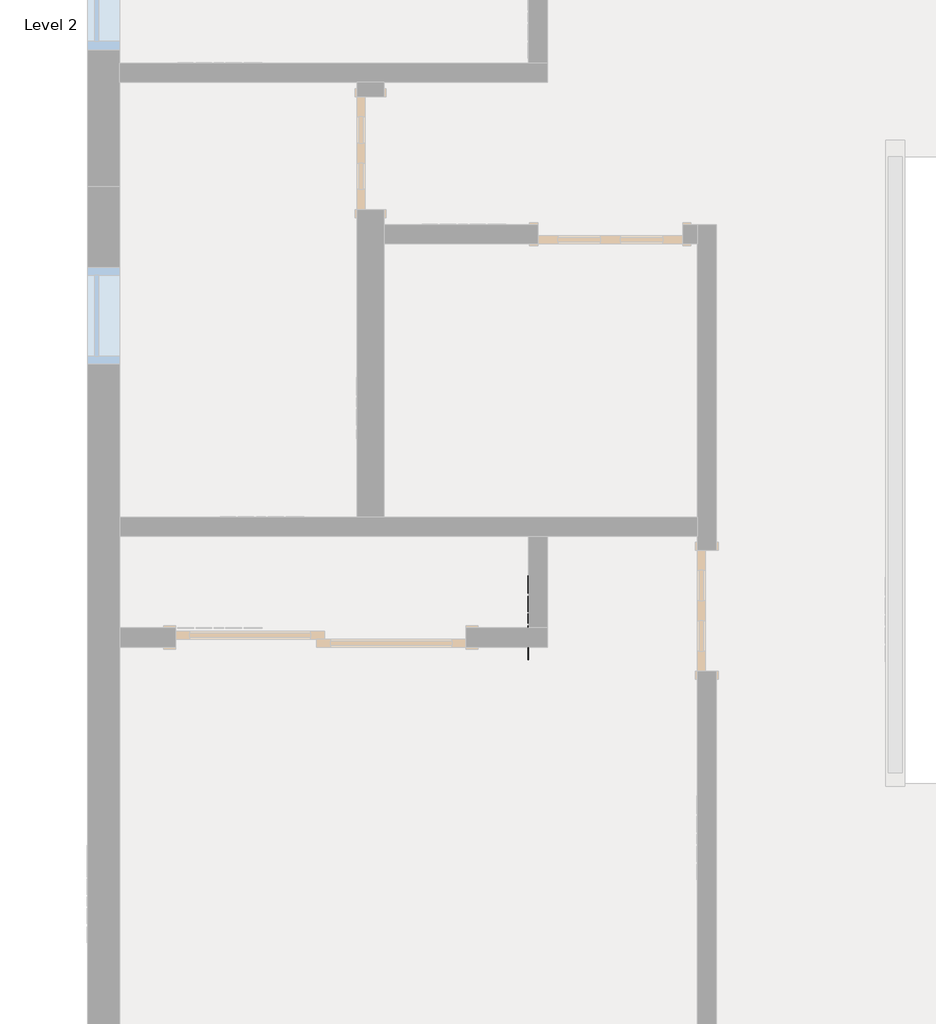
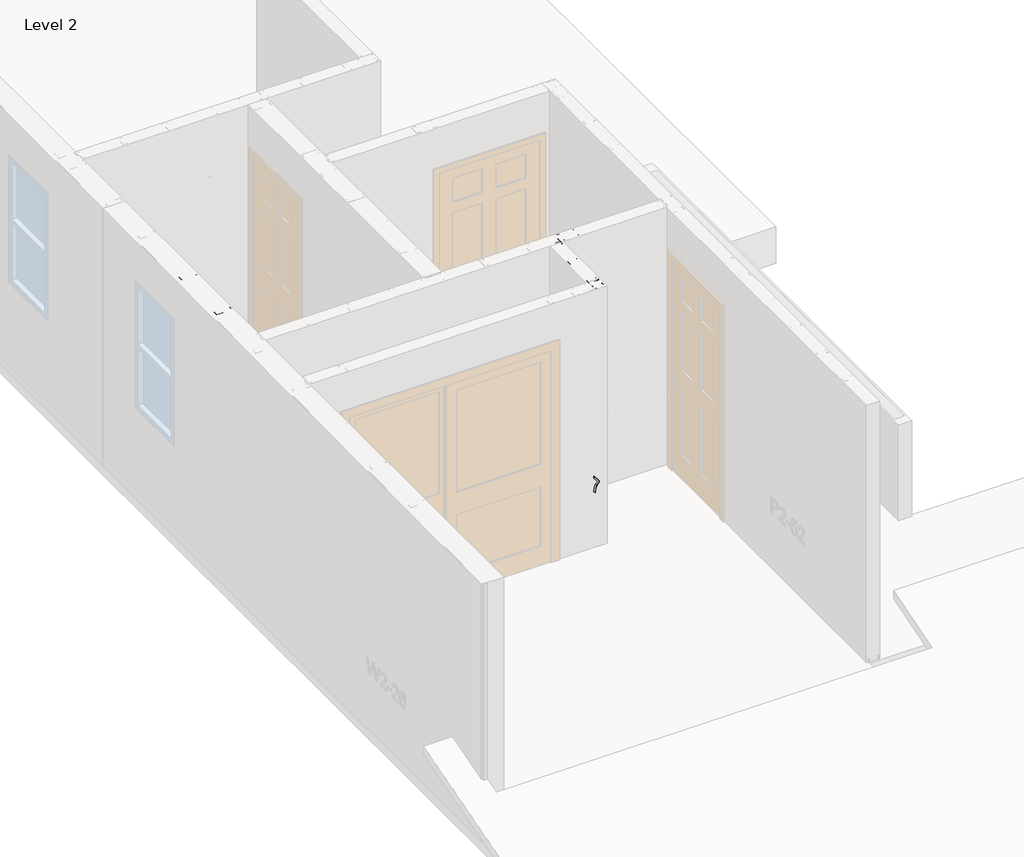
# One storey, part 10 of 46: 9 columns, 1 beam, 1 fastener.
"""IFC4 building model written with IfcOpenShell, lengths in millimetres."""

from ifc_helpers import new_model, si_unit, point, frame, origin, place, context, project, spatial, circle_curve, ellipse_curve, trimmed, transform, mapped, element, save
from ifc_brep_helpers import plane_surface, extruded_surface, advanced_brep
from components import beam_350nf150_33_0b0e94d4, column_350nf150_33_a93e9d8a, panellabel_7d7d7d8c

model = new_model("IFC4")

# Units and contexts
model_context = context("Model", 3, world=origin())
ifc_project = project(units=[si_unit("LENGTHUNIT", "METRE", prefix="MILLI")], contexts=[model_context])

# Site, building, storey
site = spatial("IfcSite", under=ifc_project)
building = spatial("IfcBuilding", under=site)
storey = spatial("IfcBuildingStorey", under=building, Name="Level 2", Elevation=3060.7)

# Beam
placement = place(None, origin())
beam_350nf150_33_shape = beam_350nf150_33_0b0e94d4(model_context)
element("IfcBeam", 1, ObjectType="BIMSF-SSMA-S : 350NF150-33", at=placement, inside=storey, context=model_context, shape_type="MappedRepresentation", body=[
    mapped(beam_350nf150_33_shape, transform((-12473.1163349, 5375.402221, 3076.575), x_axis=(0.0, 1.0000000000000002, 0.0), y_axis=(0.0, 0.0, -1.0000000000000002), z_axis=(-1.0000000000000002, 0.0, 0.0))),
])

# Columns
element("IfcColumn", 2, ObjectType="BIMSF-SSMA-S-Column : 350NF150-33", at=placement, inside=storey, context=model_context, shape_type="AdvancedBrep", body=[
    advanced_brep(
    [(-12298.4913349, 5724.652221, 3061.5929687), (-12298.4913349, 5813.552221, 3061.5929687), (-12260.3913349, 5813.552221, 3061.5929687), (-12260.3913349, 5807.8947052, 3061.5929687), (-12261.2736507, 5807.8947052, 3061.5929687), (-12261.2736507, 5812.6699052, 3061.5929687), (-12297.6090191, 5812.6699052, 3061.5929687), (-12297.6090191, 5725.5345367, 3061.5929687), (-12261.2736507, 5725.5345367, 3061.5929687), (-12261.2736507, 5730.3097367, 3061.5929687), (-12260.3913349, 5730.3097367, 3061.5929687), (-12260.3913349, 5724.652221, 3061.5929687), (-12298.4913349, 5724.652221, 5523.6070313), (-12298.4913349, 5813.552221, 5523.6070313), (-12298.4913349, 5781.802221, 3671.1929688), (-12298.4913349, 5756.402221, 3671.1929688), (-12298.4913349, 5781.802221, 4890.3929687), (-12298.4913349, 5756.402221, 4890.3929687), (-12260.3913349, 5813.552221, 5523.6070313), (-12260.3913349, 5807.8947052, 5523.6070313), (-12261.2736507, 5807.8947052, 5523.6070313), (-12261.2736507, 5812.6699052, 5523.6070313), (-12297.6090191, 5812.6699052, 5523.6070313), (-12297.6090191, 5725.5345367, 5523.6070313), (-12297.6090191, 5756.402221, 3671.1929688), (-12297.6090191, 5781.802221, 3671.1929688), (-12297.6090191, 5756.402221, 4890.3929687), (-12297.6090191, 5781.802221, 4890.3929687), (-12261.2736507, 5725.5345367, 5523.6070313), (-12261.2736507, 5730.3097367, 5523.6070313), (-12260.3913349, 5730.3097367, 5523.6070313), (-12260.3913349, 5724.652221, 5523.6070313)],
    [
        (0, 1),
        (1, 2),
        (2, 3),
        (3, 4),
        (4, 5),
        (5, 6),
        (6, 7),
        (7, 8),
        (8, 9),
        (9, 10),
        (10, 11),
        (11, 0),
        (0, 12),
        (12, 13),
        (13, 1),
        (14, 15, circle_curve(frame((-12298.4913349, 5769.102221, 3671.1929688), z_axis=(1.0, 0.0, 0.0), x_axis=(0.0, 1.0, 0.0)), 12.7)),
        (15, 14, circle_curve(frame((-12298.4913349, 5769.102221, 3671.1929688), z_axis=(1.0, 0.0, 0.0), x_axis=(0.0, 1.0, 0.0)), 12.7)),
        (16, 17, circle_curve(frame((-12298.4913349, 5769.102221, 4890.3929687), z_axis=(1.0, 0.0, 0.0), x_axis=(0.0, 1.0, 0.0)), 12.7)),
        (17, 16, circle_curve(frame((-12298.4913349, 5769.102221, 4890.3929687), z_axis=(1.0, 0.0, 0.0), x_axis=(0.0, 1.0, 0.0)), 12.7)),
        (13, 18),
        (18, 2),
        (18, 19),
        (19, 3),
        (19, 20),
        (20, 4),
        (20, 21),
        (21, 5),
        (21, 22),
        (22, 6),
        (22, 23),
        (23, 7),
        (24, 25, circle_curve(frame((-12297.6090191, 5769.102221, 3671.1929688), z_axis=(-1.0, 0.0, 0.0), x_axis=(0.0, 1.0, 0.0)), 12.7)),
        (25, 24, circle_curve(frame((-12297.6090191, 5769.102221, 3671.1929688), z_axis=(-1.0, 0.0, 0.0), x_axis=(0.0, 1.0, 0.0)), 12.7)),
        (26, 27, circle_curve(frame((-12297.6090191, 5769.102221, 4890.3929687), z_axis=(-1.0, 0.0, 0.0), x_axis=(0.0, 1.0, 0.0)), 12.7)),
        (27, 26, circle_curve(frame((-12297.6090191, 5769.102221, 4890.3929687), z_axis=(-1.0, 0.0, 0.0), x_axis=(0.0, 1.0, 0.0)), 12.7)),
        (23, 28),
        (28, 8),
        (28, 29),
        (29, 9),
        (29, 30),
        (30, 10),
        (30, 31),
        (31, 11),
        (31, 12),
        (24, 15),
        (14, 25),
        (26, 17),
        (16, 27),
    ],
    [
        plane_surface(frame((-12298.4913349, 5724.652221, 3061.5929687), z_axis=(0.0, 0.0, -1.0), x_axis=(-1.0, 0.0, 0.0))),
        plane_surface(frame((-12298.4913349, 5813.552221, 5523.6070313), z_axis=(-1.0, 0.0, 0.0), x_axis=(0.0, 0.0, -1.0))),
        plane_surface(frame((-12260.3913349, 5813.552221, 5523.6070313), z_axis=(0.0, 1.0, 0.0), x_axis=(0.0, 0.0, -1.0))),
        plane_surface(frame((-12260.3913349, 5807.8947052, 5523.6070313), z_axis=(1.0, 0.0, 0.0), x_axis=(0.0, 0.0, -1.0))),
        plane_surface(frame((-12261.2736507, 5807.8947052, 5523.6070313), z_axis=(0.0, -1.0, 0.0), x_axis=(0.0, 0.0, -1.0))),
        plane_surface(frame((-12261.2736507, 5812.6699052, 5523.6070313), z_axis=(-1.0, 0.0, 0.0), x_axis=(0.0, 0.0, -1.0))),
        plane_surface(frame((-12297.6090191, 5812.6699052, 5523.6070313), z_axis=(0.0, -1.0, 0.0), x_axis=(0.0, 0.0, -1.0))),
        plane_surface(frame((-12297.6090191, 5725.5345367, 5523.6070313), z_axis=(1.0, 0.0, 0.0), x_axis=(0.0, 0.0, -1.0))),
        plane_surface(frame((-12261.2736507, 5725.5345367, 5523.6070313), z_axis=(0.0, 1.0, 0.0), x_axis=(0.0, 0.0, -1.0))),
        plane_surface(frame((-12261.2736507, 5730.3097367, 5523.6070313), z_axis=(-1.0, 0.0, 0.0), x_axis=(0.0, 0.0, -1.0))),
        plane_surface(frame((-12260.3913349, 5730.3097367, 5523.6070313), z_axis=(0.0, 1.0, 0.0), x_axis=(0.0, 0.0, -1.0))),
        plane_surface(frame((-12260.3913349, 5724.652221, 5523.6070313), z_axis=(1.0, 0.0, 0.0), x_axis=(0.0, 0.0, -1.0))),
        plane_surface(frame((-12298.4913349, 5724.652221, 5523.6070313), z_axis=(0.0, -1.0, 0.0), x_axis=(0.0, 0.0, -1.0))),
        plane_surface(frame((-12298.4913349, 5724.652221, 5523.6070313), z_axis=(0.0, 0.0, 1.0), x_axis=(1.0, 0.0, 0.0))),
        extruded_surface(trimmed(ellipse_curve(frame((-9817.4272724, 5769.102221, 3671.1929688), z_axis=(-1.0, 0.0, 0.0), x_axis=(0.0, 1.0, 0.0)), 12.7, 12.7), [point((-9817.4272724, 5756.402221, 3671.1929688))], [point((-9817.4272724, 5781.802221, 3671.1929688))], True, "CARTESIAN"), (4924.028125, 0.0, 0.0), 4924.028125),
        extruded_surface(trimmed(ellipse_curve(frame((-9817.4272724, 5769.102221, 3671.1929688), z_axis=(-1.0, 0.0, 0.0), x_axis=(0.0, 1.0, 0.0)), 12.7, 12.7), [point((-9817.4272724, 5781.802221, 3671.1929688))], [point((-9817.4272724, 5756.402221, 3671.1929688))], True, "CARTESIAN"), (4924.028125, 0.0, 0.0), 4924.028125),
        extruded_surface(trimmed(ellipse_curve(frame((-9817.4272724, 5769.102221, 4890.3929687), z_axis=(-1.0, 0.0, 0.0), x_axis=(0.0, 1.0, 0.0)), 12.7, 12.7), [point((-9817.4272724, 5756.402221, 4890.3929687))], [point((-9817.4272724, 5781.802221, 4890.3929687))], True, "CARTESIAN"), (4924.028125, 0.0, 0.0), 4924.028125),
        extruded_surface(trimmed(ellipse_curve(frame((-9817.4272724, 5769.102221, 4890.3929687), z_axis=(-1.0, 0.0, 0.0), x_axis=(0.0, 1.0, 0.0)), 12.7, 12.7), [point((-9817.4272724, 5781.802221, 4890.3929687))], [point((-9817.4272724, 5756.402221, 4890.3929687))], True, "CARTESIAN"), (4924.028125, 0.0, 0.0), 4924.028125),
    ],
    [
        (0, [[1, 2, 3, 4, 5, 6, 7, 8, 9, 10, 11, 12]]),
        (1, [[-1, 13, 14, 15], [16, 17], [18, 19]]),
        (2, [[-2, -15, 20, 21]]),
        (3, [[-3, -21, 22, 23]]),
        (4, [[-4, -23, 24, 25]]),
        (5, [[-5, -25, 26, 27]]),
        (6, [[-6, -27, 28, 29]]),
        (7, [[-7, -29, 30, 31], [32, 33], [34, 35]]),
        (8, [[-8, -31, 36, 37]]),
        (9, [[-9, -37, 38, 39]]),
        (10, [[-10, -39, 40, 41]]),
        (11, [[-11, -41, 42, 43]]),
        (12, [[-12, -43, 44, -13]]),
        (13, [[-14, -44, -42, -40, -38, -36, -30, -28, -26, -24, -22, -20]]),
        (14, [[45, -16, 46, -32]]),
        (15, [[-45, -33, -46, -17]]),
        (16, [[47, -18, 48, -34]]),
        (17, [[-47, -35, -48, -19]]),
    ],
),
])
element("IfcColumn", 3, ObjectType="BIMSF-SSMA-S-Column : 350NF150-33", at=placement, inside=storey, context=model_context, shape_type="AdvancedBrep", body=[
    advanced_brep(
    [(-12428.6663349, 5026.152221, 3061.5929687), (-12517.5663349, 5026.152221, 3061.5929687), (-12517.5663349, 5064.252221, 3061.5929687), (-12511.9088191, 5064.252221, 3061.5929687), (-12511.9088191, 5063.3699052, 3061.5929687), (-12516.6840191, 5063.3699052, 3061.5929687), (-12516.6840191, 5027.0345367, 3061.5929687), (-12429.5486507, 5027.0345367, 3061.5929687), (-12429.5486507, 5063.3699052, 3061.5929687), (-12434.3238507, 5063.3699052, 3061.5929687), (-12434.3238507, 5064.252221, 3061.5929687), (-12428.6663349, 5064.252221, 3061.5929687), (-12428.6663349, 5026.152221, 5523.6070313), (-12517.5663349, 5026.152221, 5523.6070313), (-12485.8163349, 5026.152221, 3671.1929687), (-12460.4163349, 5026.152221, 3671.1929687), (-12485.8163349, 5026.152221, 4890.3929687), (-12460.4163349, 5026.152221, 4890.3929687), (-12517.5663349, 5064.252221, 5523.6070313), (-12511.9088191, 5064.252221, 5523.6070313), (-12511.9088191, 5063.3699052, 5523.6070313), (-12516.6840191, 5063.3699052, 5523.6070313), (-12516.6840191, 5027.0345367, 5523.6070313), (-12429.5486507, 5027.0345367, 5523.6070313), (-12460.4163349, 5027.0345367, 3671.1929688), (-12485.8163349, 5027.0345367, 3671.1929688), (-12460.4163349, 5027.0345367, 4890.3929687), (-12485.8163349, 5027.0345367, 4890.3929687), (-12429.5486507, 5063.3699052, 5523.6070313), (-12434.3238507, 5063.3699052, 5523.6070313), (-12434.3238507, 5064.252221, 5523.6070313), (-12428.6663349, 5064.252221, 5523.6070313)],
    [
        (0, 1),
        (1, 2),
        (2, 3),
        (3, 4),
        (4, 5),
        (5, 6),
        (6, 7),
        (7, 8),
        (8, 9),
        (9, 10),
        (10, 11),
        (11, 0),
        (0, 12),
        (12, 13),
        (13, 1),
        (14, 15, circle_curve(frame((-12473.1163349, 5026.152221, 3671.1929688), z_axis=(0.0, 1.0, 0.0), x_axis=(-1.0, 0.0, 0.0)), 12.7)),
        (15, 14, circle_curve(frame((-12473.1163349, 5026.152221, 3671.1929688), z_axis=(0.0, 1.0, 0.0), x_axis=(-1.0, 0.0, 0.0)), 12.7)),
        (16, 17, circle_curve(frame((-12473.1163349, 5026.152221, 4890.3929687), z_axis=(0.0, 1.0, 0.0), x_axis=(-1.0, 0.0, 0.0)), 12.7)),
        (17, 16, circle_curve(frame((-12473.1163349, 5026.152221, 4890.3929687), z_axis=(0.0, 1.0, 0.0), x_axis=(-1.0, 0.0, 0.0)), 12.7)),
        (13, 18),
        (18, 2),
        (18, 19),
        (19, 3),
        (19, 20),
        (20, 4),
        (20, 21),
        (21, 5),
        (21, 22),
        (22, 6),
        (22, 23),
        (23, 7),
        (24, 25, circle_curve(frame((-12473.1163349, 5027.0345367, 3671.1929687), z_axis=(0.0, -1.0, 0.0), x_axis=(-1.0, 0.0, 0.0)), 12.7)),
        (25, 24, circle_curve(frame((-12473.1163349, 5027.0345367, 3671.1929687), z_axis=(0.0, -1.0, 0.0), x_axis=(-1.0, 0.0, 0.0)), 12.7)),
        (26, 27, circle_curve(frame((-12473.1163349, 5027.0345367, 4890.3929687), z_axis=(0.0, -1.0, 0.0), x_axis=(-1.0, 0.0, 0.0)), 12.7)),
        (27, 26, circle_curve(frame((-12473.1163349, 5027.0345367, 4890.3929687), z_axis=(0.0, -1.0, 0.0), x_axis=(-1.0, 0.0, 0.0)), 12.7)),
        (23, 28),
        (28, 8),
        (28, 29),
        (29, 9),
        (29, 30),
        (30, 10),
        (30, 31),
        (31, 11),
        (31, 12),
        (24, 15),
        (14, 25),
        (26, 17),
        (16, 27),
    ],
    [
        plane_surface(frame((-12428.6663349, 5026.152221, 3061.5929687), z_axis=(0.0, 0.0, -1.0), x_axis=(0.0, -1.0, 0.0))),
        plane_surface(frame((-12517.5663349, 5026.152221, 5523.6070313), z_axis=(0.0, -1.0, 0.0), x_axis=(0.0, 0.0, -1.0))),
        plane_surface(frame((-12517.5663349, 5064.252221, 5523.6070313), z_axis=(-1.0, 0.0, 0.0), x_axis=(0.0, 0.0, -1.0))),
        plane_surface(frame((-12511.9088191, 5064.252221, 5523.6070313), z_axis=(0.0, 1.0, 0.0), x_axis=(0.0, 0.0, -1.0))),
        plane_surface(frame((-12511.9088191, 5063.3699052, 5523.6070313), z_axis=(1.0, 0.0, 0.0), x_axis=(0.0, 0.0, -1.0))),
        plane_surface(frame((-12516.6840191, 5063.3699052, 5523.6070313), z_axis=(0.0, -1.0, 0.0), x_axis=(0.0, 0.0, -1.0))),
        plane_surface(frame((-12516.6840191, 5027.0345367, 5523.6070313), z_axis=(1.0, 0.0, 0.0), x_axis=(0.0, 0.0, -1.0))),
        plane_surface(frame((-12429.5486507, 5027.0345367, 5523.6070313), z_axis=(0.0, 1.0, 0.0), x_axis=(0.0, 0.0, -1.0))),
        plane_surface(frame((-12429.5486507, 5063.3699052, 5523.6070313), z_axis=(-1.0, 0.0, 0.0), x_axis=(0.0, 0.0, -1.0))),
        plane_surface(frame((-12434.3238507, 5063.3699052, 5523.6070313), z_axis=(0.0, -1.0, 0.0), x_axis=(0.0, 0.0, -1.0))),
        plane_surface(frame((-12434.3238507, 5064.252221, 5523.6070313), z_axis=(-1.0, 0.0, 0.0), x_axis=(0.0, 0.0, -1.0))),
        plane_surface(frame((-12428.6663349, 5064.252221, 5523.6070313), z_axis=(0.0, 1.0, 0.0), x_axis=(0.0, 0.0, -1.0))),
        plane_surface(frame((-12428.6663349, 5026.152221, 5523.6070313), z_axis=(1.0, 0.0, 0.0), x_axis=(0.0, 0.0, -1.0))),
        plane_surface(frame((-12428.6663349, 5026.152221, 5523.6070313), z_axis=(0.0, 0.0, 1.0), x_axis=(0.0, 1.0, 0.0))),
        extruded_surface(trimmed(ellipse_curve(frame((-12473.1163349, 7507.2162835, 3671.1929688), z_axis=(0.0, -1.0, 0.0), x_axis=(-1.0, 0.0, 0.0)), 12.7, 12.7), [point((-12460.4163349, 7507.2162835, 3671.1929688))], [point((-12485.8163349, 7507.2162835, 3671.1929688))], True, "CARTESIAN"), (0.0, 4924.028125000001, 0.0), 4924.028125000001),
        extruded_surface(trimmed(ellipse_curve(frame((-12473.1163349, 7507.2162835, 3671.1929688), z_axis=(0.0, -1.0, 0.0), x_axis=(-1.0, 0.0, 0.0)), 12.7, 12.7), [point((-12485.8163349, 7507.2162835, 3671.1929688))], [point((-12460.4163349, 7507.2162835, 3671.1929688))], True, "CARTESIAN"), (0.0, 4924.028125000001, 0.0), 4924.028125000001),
        extruded_surface(trimmed(ellipse_curve(frame((-12473.1163349, 7507.2162835, 4890.3929687), z_axis=(0.0, -1.0, 0.0), x_axis=(-1.0, 0.0, 0.0)), 12.7, 12.7), [point((-12460.4163349, 7507.2162835, 4890.3929687))], [point((-12485.8163349, 7507.2162835, 4890.3929687))], True, "CARTESIAN"), (0.0, 4924.028125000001, 0.0), 4924.028125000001),
        extruded_surface(trimmed(ellipse_curve(frame((-12473.1163349, 7507.2162835, 4890.3929687), z_axis=(0.0, -1.0, 0.0), x_axis=(-1.0, 0.0, 0.0)), 12.7, 12.7), [point((-12485.8163349, 7507.2162835, 4890.3929687))], [point((-12460.4163349, 7507.2162835, 4890.3929687))], True, "CARTESIAN"), (0.0, 4924.028125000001, 0.0), 4924.028125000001),
    ],
    [
        (0, [[1, 2, 3, 4, 5, 6, 7, 8, 9, 10, 11, 12]]),
        (1, [[-1, 13, 14, 15], [16, 17], [18, 19]]),
        (2, [[-2, -15, 20, 21]]),
        (3, [[-3, -21, 22, 23]]),
        (4, [[-4, -23, 24, 25]]),
        (5, [[-5, -25, 26, 27]]),
        (6, [[-6, -27, 28, 29]]),
        (7, [[-7, -29, 30, 31], [32, 33], [34, 35]]),
        (8, [[-8, -31, 36, 37]]),
        (9, [[-9, -37, 38, 39]]),
        (10, [[-10, -39, 40, 41]]),
        (11, [[-11, -41, 42, 43]]),
        (12, [[-12, -43, 44, -13]]),
        (13, [[-14, -44, -42, -40, -38, -36, -30, -28, -26, -24, -22, -20]]),
        (14, [[45, -16, 46, -32]]),
        (15, [[-45, -33, -46, -17]]),
        (16, [[47, -18, 48, -34]]),
        (17, [[-47, -35, -48, -19]]),
    ],
),
])
element("IfcColumn", 4, ObjectType="BIMSF-SSMA-S-Column : 350NF150-33", at=placement, inside=storey, context=model_context, shape_type="AdvancedBrep", body=[
    advanced_brep(
    [(-12517.5663349, 5724.652221, 3061.5929687), (-12428.6663349, 5724.652221, 3061.5929687), (-12428.6663349, 5686.552221, 3061.5929687), (-12434.3238507, 5686.552221, 3061.5929687), (-12434.3238507, 5687.4345367, 3061.5929687), (-12429.5486507, 5687.4345367, 3061.5929687), (-12429.5486507, 5723.7699052, 3061.5929687), (-12516.6840191, 5723.7699052, 3061.5929687), (-12516.6840191, 5687.4345367, 3061.5929687), (-12511.9088191, 5687.4345367, 3061.5929687), (-12511.9088191, 5686.552221, 3061.5929687), (-12517.5663349, 5686.552221, 3061.5929687), (-12517.5663349, 5724.652221, 5523.6070313), (-12428.6663349, 5724.652221, 5523.6070313), (-12460.4163349, 5724.652221, 3671.1929687), (-12485.8163349, 5724.652221, 3671.1929687), (-12460.4163349, 5724.652221, 4890.3929687), (-12485.8163349, 5724.652221, 4890.3929687), (-12428.6663349, 5686.552221, 5523.6070313), (-12434.3238507, 5686.552221, 5523.6070313), (-12434.3238507, 5687.4345367, 5523.6070313), (-12429.5486507, 5687.4345367, 5523.6070313), (-12429.5486507, 5723.7699052, 5523.6070313), (-12516.6840191, 5723.7699052, 5523.6070313), (-12485.8163349, 5723.7699052, 3671.1929688), (-12460.4163349, 5723.7699052, 3671.1929688), (-12485.8163349, 5723.7699052, 4890.3929687), (-12460.4163349, 5723.7699052, 4890.3929687), (-12516.6840191, 5687.4345367, 5523.6070313), (-12511.9088191, 5687.4345367, 5523.6070313), (-12511.9088191, 5686.552221, 5523.6070313), (-12517.5663349, 5686.552221, 5523.6070313)],
    [
        (0, 1),
        (1, 2),
        (2, 3),
        (3, 4),
        (4, 5),
        (5, 6),
        (6, 7),
        (7, 8),
        (8, 9),
        (9, 10),
        (10, 11),
        (11, 0),
        (0, 12),
        (12, 13),
        (13, 1),
        (14, 15, circle_curve(frame((-12473.1163349, 5724.652221, 3671.1929687), z_axis=(0.0, -1.0, 0.0), x_axis=(1.0, 0.0, 0.0)), 12.7)),
        (15, 14, circle_curve(frame((-12473.1163349, 5724.652221, 3671.1929687), z_axis=(0.0, -1.0, 0.0), x_axis=(1.0, 0.0, 0.0)), 12.7)),
        (16, 17, circle_curve(frame((-12473.1163349, 5724.652221, 4890.3929687), z_axis=(0.0, -1.0, 0.0), x_axis=(1.0, 0.0, 0.0)), 12.7)),
        (17, 16, circle_curve(frame((-12473.1163349, 5724.652221, 4890.3929687), z_axis=(0.0, -1.0, 0.0), x_axis=(1.0, 0.0, 0.0)), 12.7)),
        (13, 18),
        (18, 2),
        (18, 19),
        (19, 3),
        (19, 20),
        (20, 4),
        (20, 21),
        (21, 5),
        (21, 22),
        (22, 6),
        (22, 23),
        (23, 7),
        (24, 25, circle_curve(frame((-12473.1163349, 5723.7699052, 3671.1929687), z_axis=(0.0, 1.0, 0.0), x_axis=(1.0, 0.0, 0.0)), 12.7)),
        (25, 24, circle_curve(frame((-12473.1163349, 5723.7699052, 3671.1929687), z_axis=(0.0, 1.0, 0.0), x_axis=(1.0, 0.0, 0.0)), 12.7)),
        (26, 27, circle_curve(frame((-12473.1163349, 5723.7699052, 4890.3929687), z_axis=(0.0, 1.0, 0.0), x_axis=(1.0, 0.0, 0.0)), 12.7)),
        (27, 26, circle_curve(frame((-12473.1163349, 5723.7699052, 4890.3929687), z_axis=(0.0, 1.0, 0.0), x_axis=(1.0, 0.0, 0.0)), 12.7)),
        (23, 28),
        (28, 8),
        (28, 29),
        (29, 9),
        (29, 30),
        (30, 10),
        (30, 31),
        (31, 11),
        (31, 12),
        (24, 15),
        (14, 25),
        (26, 17),
        (16, 27),
    ],
    [
        plane_surface(frame((-12517.5663349, 5724.652221, 3061.5929687), z_axis=(0.0, 0.0, -1.0), x_axis=(0.0, 1.0, 0.0))),
        plane_surface(frame((-12428.6663349, 5724.652221, 5523.6070313), z_axis=(0.0, 1.0, 0.0), x_axis=(0.0, 0.0, -1.0))),
        plane_surface(frame((-12428.6663349, 5686.552221, 5523.6070313), z_axis=(1.0, 0.0, 0.0), x_axis=(0.0, 0.0, -1.0))),
        plane_surface(frame((-12434.3238507, 5686.552221, 5523.6070313), z_axis=(0.0, -1.0, 0.0), x_axis=(0.0, 0.0, -1.0))),
        plane_surface(frame((-12434.3238507, 5687.4345367, 5523.6070313), z_axis=(-1.0, 0.0, 0.0), x_axis=(0.0, 0.0, -1.0))),
        plane_surface(frame((-12429.5486507, 5687.4345367, 5523.6070313), z_axis=(0.0, 1.0, 0.0), x_axis=(0.0, 0.0, -1.0))),
        plane_surface(frame((-12429.5486507, 5723.7699052, 5523.6070313), z_axis=(-1.0, 0.0, 0.0), x_axis=(0.0, 0.0, -1.0))),
        plane_surface(frame((-12516.6840191, 5723.7699052, 5523.6070313), z_axis=(0.0, -1.0, 0.0), x_axis=(0.0, 0.0, -1.0))),
        plane_surface(frame((-12516.6840191, 5687.4345367, 5523.6070313), z_axis=(1.0, 0.0, 0.0), x_axis=(0.0, 0.0, -1.0))),
        plane_surface(frame((-12511.9088191, 5687.4345367, 5523.6070313), z_axis=(0.0, 1.0, 0.0), x_axis=(0.0, 0.0, -1.0))),
        plane_surface(frame((-12511.9088191, 5686.552221, 5523.6070313), z_axis=(1.0, 0.0, 0.0), x_axis=(0.0, 0.0, -1.0))),
        plane_surface(frame((-12517.5663349, 5686.552221, 5523.6070313), z_axis=(0.0, -1.0, 0.0), x_axis=(0.0, 0.0, -1.0))),
        plane_surface(frame((-12517.5663349, 5724.652221, 5523.6070313), z_axis=(-1.0, 0.0, 0.0), x_axis=(0.0, 0.0, -1.0))),
        plane_surface(frame((-12517.5663349, 5724.652221, 5523.6070313), z_axis=(0.0, 0.0, 1.0), x_axis=(0.0, -1.0, 0.0))),
        extruded_surface(trimmed(ellipse_curve(frame((-12473.1163349, 3243.5881585, 3671.1929688), z_axis=(0.0, 1.0, 0.0), x_axis=(1.0, 0.0, 0.0)), 12.7, 12.7), [point((-12485.8163349, 3243.5881585, 3671.1929688))], [point((-12460.4163349, 3243.5881585, 3671.1929688))], True, "CARTESIAN"), (0.0, -4924.028125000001, 0.0), 4924.028125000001),
        extruded_surface(trimmed(ellipse_curve(frame((-12473.1163349, 3243.5881585, 3671.1929688), z_axis=(0.0, 1.0, 0.0), x_axis=(1.0, 0.0, 0.0)), 12.7, 12.7), [point((-12460.4163349, 3243.5881585, 3671.1929688))], [point((-12485.8163349, 3243.5881585, 3671.1929688))], True, "CARTESIAN"), (0.0, -4924.028125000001, 0.0), 4924.028125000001),
        extruded_surface(trimmed(ellipse_curve(frame((-12473.1163349, 3243.5881585, 4890.3929687), z_axis=(0.0, 1.0, 0.0), x_axis=(1.0, 0.0, 0.0)), 12.7, 12.7), [point((-12485.8163349, 3243.5881585, 4890.3929687))], [point((-12460.4163349, 3243.5881585, 4890.3929687))], True, "CARTESIAN"), (0.0, -4924.028125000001, 0.0), 4924.028125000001),
        extruded_surface(trimmed(ellipse_curve(frame((-12473.1163349, 3243.5881585, 4890.3929687), z_axis=(0.0, 1.0, 0.0), x_axis=(1.0, 0.0, 0.0)), 12.7, 12.7), [point((-12460.4163349, 3243.5881585, 4890.3929687))], [point((-12485.8163349, 3243.5881585, 4890.3929687))], True, "CARTESIAN"), (0.0, -4924.028125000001, 0.0), 4924.028125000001),
    ],
    [
        (0, [[1, 2, 3, 4, 5, 6, 7, 8, 9, 10, 11, 12]]),
        (1, [[-1, 13, 14, 15], [16, 17], [18, 19]]),
        (2, [[-2, -15, 20, 21]]),
        (3, [[-3, -21, 22, 23]]),
        (4, [[-4, -23, 24, 25]]),
        (5, [[-5, -25, 26, 27]]),
        (6, [[-6, -27, 28, 29]]),
        (7, [[-7, -29, 30, 31], [32, 33], [34, 35]]),
        (8, [[-8, -31, 36, 37]]),
        (9, [[-9, -37, 38, 39]]),
        (10, [[-10, -39, 40, 41]]),
        (11, [[-11, -41, 42, 43]]),
        (12, [[-12, -43, 44, -13]]),
        (13, [[-14, -44, -42, -40, -38, -36, -30, -28, -26, -24, -22, -20]]),
        (14, [[45, -16, 46, -32]]),
        (15, [[-45, -33, -46, -17]]),
        (16, [[47, -18, 48, -34]]),
        (17, [[-47, -35, -48, -19]]),
    ],
),
])
element("IfcColumn", 5, ObjectType="BIMSF-SSMA-S-Column : 350NF150-33", at=placement, inside=storey, context=model_context, shape_type="AdvancedBrep", body=[
    advanced_brep(
    [(-12428.6663349, 5413.502221, 3061.5929687), (-12517.5663349, 5413.502221, 3061.5929687), (-12517.5663349, 5451.602221, 3061.5929687), (-12511.9088191, 5451.602221, 3061.5929687), (-12511.9088191, 5450.7199052, 3061.5929687), (-12516.6840191, 5450.7199052, 3061.5929687), (-12516.6840191, 5414.3845367, 3061.5929687), (-12429.5486507, 5414.3845367, 3061.5929687), (-12429.5486507, 5450.7199052, 3061.5929687), (-12434.3238507, 5450.7199052, 3061.5929687), (-12434.3238507, 5451.602221, 3061.5929687), (-12428.6663349, 5451.602221, 3061.5929687), (-12428.6663349, 5413.502221, 5523.6070313), (-12517.5663349, 5413.502221, 5523.6070313), (-12485.8163349, 5413.502221, 3671.1929687), (-12460.4163349, 5413.502221, 3671.1929687), (-12485.8163349, 5413.502221, 4890.3929687), (-12460.4163349, 5413.502221, 4890.3929687), (-12517.5663349, 5451.602221, 5523.6070313), (-12511.9088191, 5451.602221, 5523.6070313), (-12511.9088191, 5450.7199052, 5523.6070313), (-12516.6840191, 5450.7199052, 5523.6070313), (-12516.6840191, 5414.3845367, 5523.6070313), (-12429.5486507, 5414.3845367, 5523.6070313), (-12460.4163349, 5414.3845367, 3671.1929688), (-12485.8163349, 5414.3845367, 3671.1929688), (-12460.4163349, 5414.3845367, 4890.3929687), (-12485.8163349, 5414.3845367, 4890.3929687), (-12429.5486507, 5450.7199052, 5523.6070313), (-12434.3238507, 5450.7199052, 5523.6070313), (-12434.3238507, 5451.602221, 5523.6070313), (-12428.6663349, 5451.602221, 5523.6070313)],
    [
        (0, 1),
        (1, 2),
        (2, 3),
        (3, 4),
        (4, 5),
        (5, 6),
        (6, 7),
        (7, 8),
        (8, 9),
        (9, 10),
        (10, 11),
        (11, 0),
        (0, 12),
        (12, 13),
        (13, 1),
        (14, 15, circle_curve(frame((-12473.1163349, 5413.502221, 3671.1929687), z_axis=(0.0, 1.0, 0.0), x_axis=(-1.0, 0.0, 0.0)), 12.7)),
        (15, 14, circle_curve(frame((-12473.1163349, 5413.502221, 3671.1929688), z_axis=(0.0, 1.0, 0.0), x_axis=(-1.0, 0.0, 0.0)), 12.7)),
        (16, 17, circle_curve(frame((-12473.1163349, 5413.502221, 4890.3929687), z_axis=(0.0, 1.0, 0.0), x_axis=(-1.0, 0.0, 0.0)), 12.7)),
        (17, 16, circle_curve(frame((-12473.1163349, 5413.502221, 4890.3929687), z_axis=(0.0, 1.0, 0.0), x_axis=(-1.0, 0.0, 0.0)), 12.7)),
        (13, 18),
        (18, 2),
        (18, 19),
        (19, 3),
        (19, 20),
        (20, 4),
        (20, 21),
        (21, 5),
        (21, 22),
        (22, 6),
        (22, 23),
        (23, 7),
        (24, 25, circle_curve(frame((-12473.1163349, 5414.3845367, 3671.1929687), z_axis=(0.0, -1.0, 0.0), x_axis=(-1.0, 0.0, 0.0)), 12.7)),
        (25, 24, circle_curve(frame((-12473.1163349, 5414.3845367, 3671.1929687), z_axis=(0.0, -1.0, 0.0), x_axis=(-1.0, 0.0, 0.0)), 12.7)),
        (26, 27, circle_curve(frame((-12473.1163349, 5414.3845367, 4890.3929687), z_axis=(0.0, -1.0, 0.0), x_axis=(-1.0, 0.0, 0.0)), 12.7)),
        (27, 26, circle_curve(frame((-12473.1163349, 5414.3845367, 4890.3929687), z_axis=(0.0, -1.0, 0.0), x_axis=(-1.0, 0.0, 0.0)), 12.7)),
        (23, 28),
        (28, 8),
        (28, 29),
        (29, 9),
        (29, 30),
        (30, 10),
        (30, 31),
        (31, 11),
        (31, 12),
        (24, 15),
        (14, 25),
        (26, 17),
        (16, 27),
    ],
    [
        plane_surface(frame((-12428.6663349, 5413.502221, 3061.5929687), z_axis=(0.0, 0.0, -1.0), x_axis=(0.0, -1.0, 0.0))),
        plane_surface(frame((-12517.5663349, 5413.502221, 5523.6070313), z_axis=(0.0, -1.0, 0.0), x_axis=(0.0, 0.0, -1.0))),
        plane_surface(frame((-12517.5663349, 5451.602221, 5523.6070313), z_axis=(-1.0, 0.0, 0.0), x_axis=(0.0, 0.0, -1.0))),
        plane_surface(frame((-12511.9088191, 5451.602221, 5523.6070313), z_axis=(0.0, 1.0, 0.0), x_axis=(0.0, 0.0, -1.0))),
        plane_surface(frame((-12511.9088191, 5450.7199052, 5523.6070313), z_axis=(1.0, 0.0, 0.0), x_axis=(0.0, 0.0, -1.0))),
        plane_surface(frame((-12516.6840191, 5450.7199052, 5523.6070313), z_axis=(0.0, -1.0, 0.0), x_axis=(0.0, 0.0, -1.0))),
        plane_surface(frame((-12516.6840191, 5414.3845367, 5523.6070313), z_axis=(1.0, 0.0, 0.0), x_axis=(0.0, 0.0, -1.0))),
        plane_surface(frame((-12429.5486507, 5414.3845367, 5523.6070313), z_axis=(0.0, 1.0, 0.0), x_axis=(0.0, 0.0, -1.0))),
        plane_surface(frame((-12429.5486507, 5450.7199052, 5523.6070313), z_axis=(-1.0, 0.0, 0.0), x_axis=(0.0, 0.0, -1.0))),
        plane_surface(frame((-12434.3238507, 5450.7199052, 5523.6070313), z_axis=(0.0, -1.0, 0.0), x_axis=(0.0, 0.0, -1.0))),
        plane_surface(frame((-12434.3238507, 5451.602221, 5523.6070313), z_axis=(-1.0, 0.0, 0.0), x_axis=(0.0, 0.0, -1.0))),
        plane_surface(frame((-12428.6663349, 5451.602221, 5523.6070313), z_axis=(0.0, 1.0, 0.0), x_axis=(0.0, 0.0, -1.0))),
        plane_surface(frame((-12428.6663349, 5413.502221, 5523.6070313), z_axis=(1.0, 0.0, 0.0), x_axis=(0.0, 0.0, -1.0))),
        plane_surface(frame((-12428.6663349, 5413.502221, 5523.6070313), z_axis=(0.0, 0.0, 1.0), x_axis=(0.0, 1.0, 0.0))),
        extruded_surface(trimmed(ellipse_curve(frame((-12473.1163349, 7894.5662835, 3671.1929688), z_axis=(0.0, -1.0, 0.0), x_axis=(-1.0, 0.0, 0.0)), 12.7, 12.7), [point((-12460.4163349, 7894.5662835, 3671.1929688))], [point((-12485.8163349, 7894.5662835, 3671.1929688))], True, "CARTESIAN"), (0.0, 4924.028124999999, 0.0), 4924.028124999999),
        extruded_surface(trimmed(ellipse_curve(frame((-12473.1163349, 7894.5662835, 3671.1929688), z_axis=(0.0, -1.0, 0.0), x_axis=(-1.0, 0.0, 0.0)), 12.7, 12.7), [point((-12485.8163349, 7894.5662835, 3671.1929688))], [point((-12460.4163349, 7894.5662835, 3671.1929688))], True, "CARTESIAN"), (0.0, 4924.028124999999, 0.0), 4924.028124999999),
        extruded_surface(trimmed(ellipse_curve(frame((-12473.1163349, 7894.5662835, 4890.3929687), z_axis=(0.0, -1.0, 0.0), x_axis=(-1.0, 0.0, 0.0)), 12.7, 12.7), [point((-12460.4163349, 7894.5662835, 4890.3929687))], [point((-12485.8163349, 7894.5662835, 4890.3929687))], True, "CARTESIAN"), (0.0, 4924.028124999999, 0.0), 4924.028124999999),
        extruded_surface(trimmed(ellipse_curve(frame((-12473.1163349, 7894.5662835, 4890.3929687), z_axis=(0.0, -1.0, 0.0), x_axis=(-1.0, 0.0, 0.0)), 12.7, 12.7), [point((-12485.8163349, 7894.5662835, 4890.3929687))], [point((-12460.4163349, 7894.5662835, 4890.3929687))], True, "CARTESIAN"), (0.0, 4924.028124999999, 0.0), 4924.028124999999),
    ],
    [
        (0, [[1, 2, 3, 4, 5, 6, 7, 8, 9, 10, 11, 12]]),
        (1, [[-1, 13, 14, 15], [16, 17], [18, 19]]),
        (2, [[-2, -15, 20, 21]]),
        (3, [[-3, -21, 22, 23]]),
        (4, [[-4, -23, 24, 25]]),
        (5, [[-5, -25, 26, 27]]),
        (6, [[-6, -27, 28, 29]]),
        (7, [[-7, -29, 30, 31], [32, 33], [34, 35]]),
        (8, [[-8, -31, 36, 37]]),
        (9, [[-9, -37, 38, 39]]),
        (10, [[-10, -39, 40, 41]]),
        (11, [[-11, -41, 42, 43]]),
        (12, [[-12, -43, 44, -13]]),
        (13, [[-14, -44, -42, -40, -38, -36, -30, -28, -26, -24, -22, -20]]),
        (14, [[45, -16, 46, -32]]),
        (15, [[-45, -33, -46, -17]]),
        (16, [[47, -18, 48, -34]]),
        (17, [[-47, -35, -48, -19]]),
    ],
),
])
column_350nf150_33_shape = column_350nf150_33_a93e9d8a(model_context)
element("IfcColumn", 6, ObjectType="BIMSF-SSMA-S-Column : 350NF150-33", at=placement, inside=storey, context=model_context, shape_type="MappedRepresentation", body=[
    mapped(column_350nf150_33_shape, transform((-12416.6685471, 5779.8393459, 0.0), x_axis=(1.0, 0.0, 0.0), y_axis=(0.0, 1.0, 0.0), z_axis=(0.0, 0.0, 1.0))),
])
element("IfcColumn", 7, ObjectType="BIMSF-SSMA-S-Column : 350NF150-33", at=placement, inside=storey, context=model_context, shape_type="MappedRepresentation", body=[
    mapped(column_350nf150_33_shape, transform((-12529.5641226, 5758.365096, 0.0), x_axis=(-1.0, 0.0, 0.0), y_axis=(0.0, -1.0, 0.0), z_axis=(0.0, 0.0, 1.0))),
])
element("IfcColumn", 8, ObjectType="BIMSF-SSMA-S-Column : 350NF150-33", at=placement, inside=storey, context=model_context, shape_type="MappedRepresentation", body=[
    mapped(column_350nf150_33_shape, transform((-12483.8534598, 5127.0500087, 0.0), x_axis=(0.0, 1.0, 0.0), y_axis=(-1.0, 0.0, 0.0), z_axis=(0.0, 0.0, 1.0))),
])
element("IfcColumn", 9, ObjectType="BIMSF-SSMA-S-Column : 550NF150-43", at=placement, inside=storey, context=model_context, shape_type="AdvancedBrep", body=[
    advanced_brep(
    [(-15263.9413349, 6791.452221, 3061.5929687), (-15124.2413349, 6791.452221, 3061.5929687), (-15124.2413349, 6753.352221, 3061.5929687), (-15130.1662191, 6753.352221, 3061.5929687), (-15130.1662191, 6754.5019052, 3061.5929687), (-15125.3910191, 6754.5019052, 3061.5929687), (-15125.3910191, 6790.3025367, 3061.5929687), (-15262.7916507, 6790.3025367, 3061.5929687), (-15262.7916507, 6754.5019052, 3061.5929687), (-15258.0164507, 6754.5019052, 3061.5929687), (-15258.0164507, 6753.352221, 3061.5929687), (-15263.9413349, 6753.352221, 3061.5929687), (-15263.9413349, 6791.452221, 5523.6070313), (-15124.2413349, 6791.452221, 5523.6070313), (-15181.3913349, 6791.452221, 3671.1929688), (-15206.7913349, 6791.452221, 3671.1929688), (-15181.3913349, 6791.452221, 4890.3929687), (-15206.7913349, 6791.452221, 4890.3929687), (-15124.2413349, 6753.352221, 5523.6070313), (-15130.1662191, 6753.352221, 5523.6070313), (-15130.1662191, 6754.5019052, 5523.6070313), (-15125.3910191, 6754.5019052, 5523.6070313), (-15125.3910191, 6790.3025367, 5523.6070313), (-15262.7916507, 6790.3025367, 5523.6070313), (-15206.7913349, 6790.3025367, 3671.1929688), (-15181.3913349, 6790.3025367, 3671.1929688), (-15206.7913349, 6790.3025367, 4890.3929687), (-15181.3913349, 6790.3025367, 4890.3929687), (-15262.7916507, 6754.5019052, 5523.6070313), (-15258.0164507, 6754.5019052, 5523.6070313), (-15258.0164507, 6753.352221, 5523.6070313), (-15263.9413349, 6753.352221, 5523.6070313)],
    [
        (0, 1),
        (1, 2),
        (2, 3),
        (3, 4),
        (4, 5),
        (5, 6),
        (6, 7),
        (7, 8),
        (8, 9),
        (9, 10),
        (10, 11),
        (11, 0),
        (0, 12),
        (12, 13),
        (13, 1),
        (14, 15, circle_curve(frame((-15194.0913349, 6791.452221, 3671.1929688), z_axis=(0.0, -1.0, 0.0), x_axis=(1.0, 0.0, 0.0)), 12.7)),
        (15, 14, circle_curve(frame((-15194.0913349, 6791.452221, 3671.1929688), z_axis=(0.0, -1.0, 0.0), x_axis=(1.0, 0.0, 0.0)), 12.7)),
        (16, 17, circle_curve(frame((-15194.0913349, 6791.452221, 4890.3929687), z_axis=(0.0, -1.0, 0.0), x_axis=(1.0, 0.0, 0.0)), 12.7)),
        (17, 16, circle_curve(frame((-15194.0913349, 6791.452221, 4890.3929687), z_axis=(0.0, -1.0, 0.0), x_axis=(1.0, 0.0, 0.0)), 12.7)),
        (13, 18),
        (18, 2),
        (18, 19),
        (19, 3),
        (19, 20),
        (20, 4),
        (20, 21),
        (21, 5),
        (21, 22),
        (22, 6),
        (22, 23),
        (23, 7),
        (24, 25, circle_curve(frame((-15194.0913349, 6790.3025367, 3671.1929687), z_axis=(0.0, 1.0, 0.0), x_axis=(1.0, 0.0, 0.0)), 12.7)),
        (25, 24, circle_curve(frame((-15194.0913349, 6790.3025367, 3671.1929687), z_axis=(0.0, 1.0, 0.0), x_axis=(1.0, 0.0, 0.0)), 12.7)),
        (26, 27, circle_curve(frame((-15194.0913349, 6790.3025367, 4890.3929687), z_axis=(0.0, 1.0, 0.0), x_axis=(1.0, 0.0, 0.0)), 12.7)),
        (27, 26, circle_curve(frame((-15194.0913349, 6790.3025367, 4890.3929687), z_axis=(0.0, 1.0, 0.0), x_axis=(1.0, 0.0, 0.0)), 12.7)),
        (23, 28),
        (28, 8),
        (28, 29),
        (29, 9),
        (29, 30),
        (30, 10),
        (30, 31),
        (31, 11),
        (31, 12),
        (24, 15),
        (14, 25),
        (26, 17),
        (16, 27),
    ],
    [
        plane_surface(frame((-15263.9413349, 6791.452221, 3061.5929687), z_axis=(0.0, 0.0, -1.0), x_axis=(0.0, 1.0, 0.0))),
        plane_surface(frame((-15124.2413349, 6791.452221, 5523.6070313), z_axis=(0.0, 1.0, 0.0), x_axis=(0.0, 0.0, -1.0))),
        plane_surface(frame((-15124.2413349, 6753.352221, 5523.6070313), z_axis=(1.0, 0.0, 0.0), x_axis=(0.0, 0.0, -1.0))),
        plane_surface(frame((-15130.1662191, 6753.352221, 5523.6070313), z_axis=(0.0, -1.0, 0.0), x_axis=(0.0, 0.0, -1.0))),
        plane_surface(frame((-15130.1662191, 6754.5019052, 5523.6070313), z_axis=(-1.0, 0.0, 0.0), x_axis=(0.0, 0.0, -1.0))),
        plane_surface(frame((-15125.3910191, 6754.5019052, 5523.6070313), z_axis=(0.0, 1.0, 0.0), x_axis=(0.0, 0.0, -1.0))),
        plane_surface(frame((-15125.3910191, 6790.3025367, 5523.6070313), z_axis=(-1.0, 0.0, 0.0), x_axis=(0.0, 0.0, -1.0))),
        plane_surface(frame((-15262.7916507, 6790.3025367, 5523.6070313), z_axis=(0.0, -1.0, 0.0), x_axis=(0.0, 0.0, -1.0))),
        plane_surface(frame((-15262.7916507, 6754.5019052, 5523.6070313), z_axis=(1.0, 0.0, 0.0), x_axis=(0.0, 0.0, -1.0))),
        plane_surface(frame((-15258.0164507, 6754.5019052, 5523.6070313), z_axis=(0.0, 1.0, 0.0), x_axis=(0.0, 0.0, -1.0))),
        plane_surface(frame((-15258.0164507, 6753.352221, 5523.6070313), z_axis=(1.0, 0.0, 0.0), x_axis=(0.0, 0.0, -1.0))),
        plane_surface(frame((-15263.9413349, 6753.352221, 5523.6070313), z_axis=(0.0, -1.0, 0.0), x_axis=(0.0, 0.0, -1.0))),
        plane_surface(frame((-15263.9413349, 6791.452221, 5523.6070313), z_axis=(-1.0, 0.0, 0.0), x_axis=(0.0, 0.0, -1.0))),
        plane_surface(frame((-15263.9413349, 6791.452221, 5523.6070313), z_axis=(0.0, 0.0, 1.0), x_axis=(0.0, -1.0, 0.0))),
        extruded_surface(trimmed(ellipse_curve(frame((-15194.0913349, 4310.3881585, 3671.1929688), z_axis=(0.0, 1.0, 0.0), x_axis=(1.0, 0.0, 0.0)), 12.7, 12.7), [point((-15206.7913349, 4310.3881585, 3671.1929688))], [point((-15181.3913349, 4310.3881585, 3671.1929688))], True, "CARTESIAN"), (0.0, -4924.028125, 0.0), 4924.028125),
        extruded_surface(trimmed(ellipse_curve(frame((-15194.0913349, 4310.3881585, 3671.1929688), z_axis=(0.0, 1.0, 0.0), x_axis=(1.0, 0.0, 0.0)), 12.7, 12.7), [point((-15181.3913349, 4310.3881585, 3671.1929688))], [point((-15206.7913349, 4310.3881585, 3671.1929688))], True, "CARTESIAN"), (0.0, -4924.028125, 0.0), 4924.028125),
        extruded_surface(trimmed(ellipse_curve(frame((-15194.0913349, 4310.3881585, 4890.3929687), z_axis=(0.0, 1.0, 0.0), x_axis=(1.0, 0.0, 0.0)), 12.7, 12.7), [point((-15206.7913349, 4310.3881585, 4890.3929687))], [point((-15181.3913349, 4310.3881585, 4890.3929687))], True, "CARTESIAN"), (0.0, -4924.028125, 0.0), 4924.028125),
        extruded_surface(trimmed(ellipse_curve(frame((-15194.0913349, 4310.3881585, 4890.3929687), z_axis=(0.0, 1.0, 0.0), x_axis=(1.0, 0.0, 0.0)), 12.7, 12.7), [point((-15181.3913349, 4310.3881585, 4890.3929687))], [point((-15206.7913349, 4310.3881585, 4890.3929687))], True, "CARTESIAN"), (0.0, -4924.028125, 0.0), 4924.028125),
    ],
    [
        (0, [[1, 2, 3, 4, 5, 6, 7, 8, 9, 10, 11, 12]]),
        (1, [[-1, 13, 14, 15], [16, 17], [18, 19]]),
        (2, [[-2, -15, 20, 21]]),
        (3, [[-3, -21, 22, 23]]),
        (4, [[-4, -23, 24, 25]]),
        (5, [[-5, -25, 26, 27]]),
        (6, [[-6, -27, 28, 29]]),
        (7, [[-7, -29, 30, 31], [32, 33], [34, 35]]),
        (8, [[-8, -31, 36, 37]]),
        (9, [[-9, -37, 38, 39]]),
        (10, [[-10, -39, 40, 41]]),
        (11, [[-11, -41, 42, 43]]),
        (12, [[-12, -43, 44, -13]]),
        (13, [[-14, -44, -42, -40, -38, -36, -30, -28, -26, -24, -22, -20]]),
        (14, [[45, -16, 46, -32]]),
        (15, [[-45, -33, -46, -17]]),
        (16, [[47, -18, 48, -34]]),
        (17, [[-47, -35, -48, -19]]),
    ],
),
])
element("IfcColumn", 10, ObjectType="BIMSF-SSMA-S-Column : 550NF150-43", at=placement, inside=storey, context=model_context, shape_type="AdvancedBrep", body=[
    advanced_brep(
    [(-15124.2413349, 6200.902221, 3061.5929687), (-15263.9413349, 6200.902221, 3061.5929687), (-15263.9413349, 6239.002221, 3061.5929687), (-15258.0164507, 6239.002221, 3061.5929687), (-15258.0164507, 6237.8525367, 3061.5929687), (-15262.7916507, 6237.8525367, 3061.5929687), (-15262.7916507, 6202.0519052, 3061.5929687), (-15125.3910191, 6202.0519052, 3061.5929687), (-15125.3910191, 6237.8525367, 3061.5929687), (-15130.1662191, 6237.8525367, 3061.5929687), (-15130.1662191, 6239.002221, 3061.5929687), (-15124.2413349, 6239.002221, 3061.5929687), (-15124.2413349, 6200.902221, 5523.6070313), (-15263.9413349, 6200.902221, 5523.6070313), (-15206.7913349, 6200.902221, 3671.1929687), (-15181.3913349, 6200.902221, 3671.1929687), (-15206.7913349, 6200.902221, 4890.3929687), (-15181.3913349, 6200.902221, 4890.3929687), (-15263.9413349, 6239.002221, 5523.6070313), (-15258.0164507, 6239.002221, 5523.6070313), (-15258.0164507, 6237.8525367, 5523.6070313), (-15262.7916507, 6237.8525367, 5523.6070313), (-15262.7916507, 6202.0519052, 5523.6070313), (-15125.3910191, 6202.0519052, 5523.6070313), (-15181.3913349, 6202.0519052, 3671.1929688), (-15206.7913349, 6202.0519052, 3671.1929688), (-15181.3913349, 6202.0519052, 4890.3929687), (-15206.7913349, 6202.0519052, 4890.3929687), (-15125.3910191, 6237.8525367, 5523.6070313), (-15130.1662191, 6237.8525367, 5523.6070313), (-15130.1662191, 6239.002221, 5523.6070313), (-15124.2413349, 6239.002221, 5523.6070313)],
    [
        (0, 1),
        (1, 2),
        (2, 3),
        (3, 4),
        (4, 5),
        (5, 6),
        (6, 7),
        (7, 8),
        (8, 9),
        (9, 10),
        (10, 11),
        (11, 0),
        (0, 12),
        (12, 13),
        (13, 1),
        (14, 15, circle_curve(frame((-15194.0913349, 6200.902221, 3671.1929688), z_axis=(0.0, 1.0, 0.0), x_axis=(-1.0, 0.0, 0.0)), 12.7)),
        (15, 14, circle_curve(frame((-15194.0913349, 6200.902221, 3671.1929688), z_axis=(0.0, 1.0, 0.0), x_axis=(-1.0, 0.0, 0.0)), 12.7)),
        (16, 17, circle_curve(frame((-15194.0913349, 6200.902221, 4890.3929687), z_axis=(0.0, 1.0, 0.0), x_axis=(-1.0, 0.0, 0.0)), 12.7)),
        (17, 16, circle_curve(frame((-15194.0913349, 6200.902221, 4890.3929687), z_axis=(0.0, 1.0, 0.0), x_axis=(-1.0, 0.0, 0.0)), 12.7)),
        (13, 18),
        (18, 2),
        (18, 19),
        (19, 3),
        (19, 20),
        (20, 4),
        (20, 21),
        (21, 5),
        (21, 22),
        (22, 6),
        (22, 23),
        (23, 7),
        (24, 25, circle_curve(frame((-15194.0913349, 6202.0519052, 3671.1929688), z_axis=(0.0, -1.0, 0.0), x_axis=(-1.0, 0.0, 0.0)), 12.7)),
        (25, 24, circle_curve(frame((-15194.0913349, 6202.0519052, 3671.1929688), z_axis=(0.0, -1.0, 0.0), x_axis=(-1.0, 0.0, 0.0)), 12.7)),
        (26, 27, circle_curve(frame((-15194.0913349, 6202.0519052, 4890.3929687), z_axis=(0.0, -1.0, 0.0), x_axis=(-1.0, 0.0, 0.0)), 12.7)),
        (27, 26, circle_curve(frame((-15194.0913349, 6202.0519052, 4890.3929687), z_axis=(0.0, -1.0, 0.0), x_axis=(-1.0, 0.0, 0.0)), 12.7)),
        (23, 28),
        (28, 8),
        (28, 29),
        (29, 9),
        (29, 30),
        (30, 10),
        (30, 31),
        (31, 11),
        (31, 12),
        (24, 15),
        (14, 25),
        (26, 17),
        (16, 27),
    ],
    [
        plane_surface(frame((-15124.2413349, 6200.902221, 3061.5929687), z_axis=(0.0, 0.0, -1.0), x_axis=(0.0, -1.0, 0.0))),
        plane_surface(frame((-15263.9413349, 6200.902221, 5523.6070313), z_axis=(0.0, -1.0, 0.0), x_axis=(0.0, 0.0, -1.0))),
        plane_surface(frame((-15263.9413349, 6239.002221, 5523.6070313), z_axis=(-1.0, 0.0, 0.0), x_axis=(0.0, 0.0, -1.0))),
        plane_surface(frame((-15258.0164507, 6239.002221, 5523.6070313), z_axis=(0.0, 1.0, 0.0), x_axis=(0.0, 0.0, -1.0))),
        plane_surface(frame((-15258.0164507, 6237.8525367, 5523.6070313), z_axis=(1.0, 0.0, 0.0), x_axis=(0.0, 0.0, -1.0))),
        plane_surface(frame((-15262.7916507, 6237.8525367, 5523.6070313), z_axis=(0.0, -1.0, 0.0), x_axis=(0.0, 0.0, -1.0))),
        plane_surface(frame((-15262.7916507, 6202.0519052, 5523.6070313), z_axis=(1.0, 0.0, 0.0), x_axis=(0.0, 0.0, -1.0))),
        plane_surface(frame((-15125.3910191, 6202.0519052, 5523.6070313), z_axis=(0.0, 1.0, 0.0), x_axis=(0.0, 0.0, -1.0))),
        plane_surface(frame((-15125.3910191, 6237.8525367, 5523.6070313), z_axis=(-1.0, 0.0, 0.0), x_axis=(0.0, 0.0, -1.0))),
        plane_surface(frame((-15130.1662191, 6237.8525367, 5523.6070313), z_axis=(0.0, -1.0, 0.0), x_axis=(0.0, 0.0, -1.0))),
        plane_surface(frame((-15130.1662191, 6239.002221, 5523.6070313), z_axis=(-1.0, 0.0, 0.0), x_axis=(0.0, 0.0, -1.0))),
        plane_surface(frame((-15124.2413349, 6239.002221, 5523.6070313), z_axis=(0.0, 1.0, 0.0), x_axis=(0.0, 0.0, -1.0))),
        plane_surface(frame((-15124.2413349, 6200.902221, 5523.6070313), z_axis=(1.0, 0.0, 0.0), x_axis=(0.0, 0.0, -1.0))),
        plane_surface(frame((-15124.2413349, 6200.902221, 5523.6070313), z_axis=(0.0, 0.0, 1.0), x_axis=(0.0, 1.0, 0.0))),
        extruded_surface(trimmed(ellipse_curve(frame((-15194.0913349, 8681.9662835, 3671.1929688), z_axis=(0.0, -1.0, 0.0), x_axis=(-1.0, 0.0, 0.0)), 12.7, 12.7), [point((-15181.3913349, 8681.9662835, 3671.1929688))], [point((-15206.7913349, 8681.9662835, 3671.1929688))], True, "CARTESIAN"), (0.0, 4924.028125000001, 0.0), 4924.028125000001),
        extruded_surface(trimmed(ellipse_curve(frame((-15194.0913349, 8681.9662835, 3671.1929688), z_axis=(0.0, -1.0, 0.0), x_axis=(-1.0, 0.0, 0.0)), 12.7, 12.7), [point((-15206.7913349, 8681.9662835, 3671.1929688))], [point((-15181.3913349, 8681.9662835, 3671.1929688))], True, "CARTESIAN"), (0.0, 4924.028125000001, 0.0), 4924.028125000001),
        extruded_surface(trimmed(ellipse_curve(frame((-15194.0913349, 8681.9662835, 4890.3929687), z_axis=(0.0, -1.0, 0.0), x_axis=(-1.0, 0.0, 0.0)), 12.7, 12.7), [point((-15181.3913349, 8681.9662835, 4890.3929687))], [point((-15206.7913349, 8681.9662835, 4890.3929687))], True, "CARTESIAN"), (0.0, 4924.028125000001, 0.0), 4924.028125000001),
        extruded_surface(trimmed(ellipse_curve(frame((-15194.0913349, 8681.9662835, 4890.3929687), z_axis=(0.0, -1.0, 0.0), x_axis=(-1.0, 0.0, 0.0)), 12.7, 12.7), [point((-15206.7913349, 8681.9662835, 4890.3929687))], [point((-15181.3913349, 8681.9662835, 4890.3929687))], True, "CARTESIAN"), (0.0, 4924.028125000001, 0.0), 4924.028125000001),
    ],
    [
        (0, [[1, 2, 3, 4, 5, 6, 7, 8, 9, 10, 11, 12]]),
        (1, [[-1, 13, 14, 15], [16, 17], [18, 19]]),
        (2, [[-2, -15, 20, 21]]),
        (3, [[-3, -21, 22, 23]]),
        (4, [[-4, -23, 24, 25]]),
        (5, [[-5, -25, 26, 27]]),
        (6, [[-6, -27, 28, 29]]),
        (7, [[-7, -29, 30, 31], [32, 33], [34, 35]]),
        (8, [[-8, -31, 36, 37]]),
        (9, [[-9, -37, 38, 39]]),
        (10, [[-10, -39, 40, 41]]),
        (11, [[-11, -41, 42, 43]]),
        (12, [[-12, -43, 44, -13]]),
        (13, [[-14, -44, -42, -40, -38, -36, -30, -28, -26, -24, -22, -20]]),
        (14, [[45, -16, 46, -32]]),
        (15, [[-45, -33, -46, -17]]),
        (16, [[47, -18, 48, -34]]),
        (17, [[-47, -35, -48, -19]]),
    ],
),
])

# Fastener
panellabel_shape = panellabel_7d7d7d8c(model_context)
element("IfcFastener", 11, ObjectType="PanelLabel : Miranda", at=placement, inside=storey, context=model_context, shape_type="MappedRepresentation", body=[
    mapped(panellabel_shape, transform((-12473.1163349, 5200.777221, 2289.5386234), x_axis=(0.0, 1.0, 0.0), y_axis=(-1.0, 0.0, 0.0), z_axis=(0.0, 0.0, 1.0))),
])

save(model, "model.ifc")
